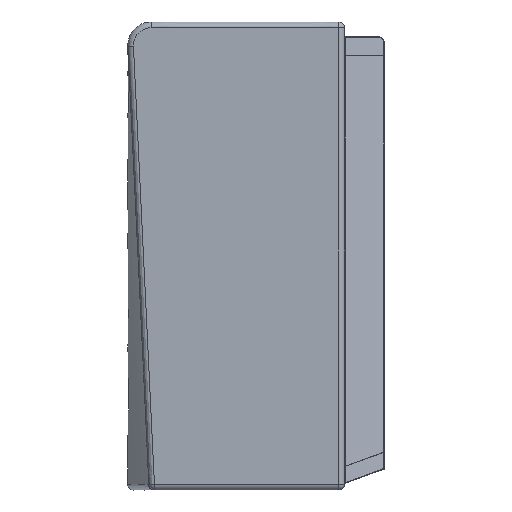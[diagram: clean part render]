
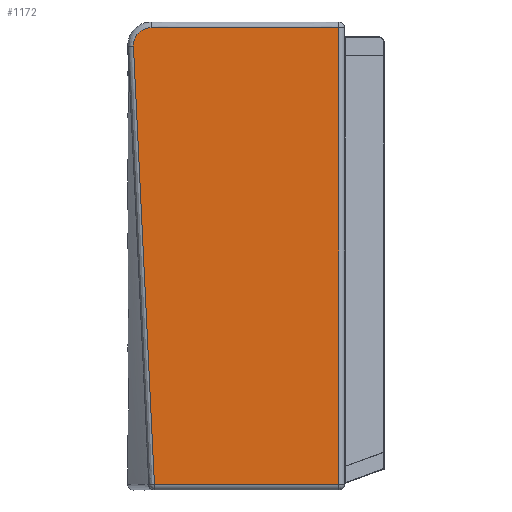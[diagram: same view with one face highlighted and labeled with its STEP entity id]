
A CAD part, left-side view. The second image highlights one B-rep face of the part: STEP entity #1172.
In plain terms, the highlighted planar face has unit normal (-1, 0, 0).
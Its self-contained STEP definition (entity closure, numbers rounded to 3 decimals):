
#132=FACE_OUTER_BOUND('',#215,.T.);
#215=EDGE_LOOP('',(#789,#790,#791,#792,#793));
#300=B_SPLINE_CURVE_WITH_KNOTS('',3,(#1871,#1872,#1873,#1874,#1875,#1876,
#1877,#1878,#1879,#1880,#1881,#1882,#1883,#1884,#1885,#1886,#1887,#1888,
#1889,#1890,#1891,#1892,#1893,#1894,#1895,#1896,#1897,#1898,#1899,#1900,
#1901,#1902,#1903,#1904,#1905,#1906,#1907,#1908,#1909,#1910,#1911,#1912,
#1913,#1914,#1915,#1916,#1917,#1918,#1919,#1920,#1921,#1922,#1923,#1924,
#1925,#1926,#1927,#1928,#1929,#1930,#1931,#1932,#1933,#1934,#1935,#1936,
#1937,#1938,#1939,#1940,#1941,#1942,#1943,#1944,#1945,#1946),
 .UNSPECIFIED.,.F.,.F.,(4,3,3,3,3,3,3,3,3,3,3,3,3,3,3,3,3,3,3,3,3,3,3,3,
3,4),(0.,0.004,0.006,0.009,0.011,
0.012,0.019,0.02,0.022,
0.025,0.031,0.033,0.034,
0.037,0.04,0.042,0.044,
0.047,0.048,0.049,0.049,
0.05,0.05,0.05,0.05,
0.05),.UNSPECIFIED.);
#301=B_SPLINE_CURVE_WITH_KNOTS('',3,(#1948,#1949,#1950,#1951,#1952,#1953,
#1954,#1955,#1956,#1957,#1958,#1959,#1960,#1961,#1962,#1963,#1964,#1965,
#1966),.UNSPECIFIED.,.F.,.F.,(4,3,3,3,3,3,4),(0.,0.193,0.387,
0.58,0.677,0.725,0.774),
 .UNSPECIFIED.);
#302=B_SPLINE_CURVE_WITH_KNOTS('',3,(#1971,#1972,#1973,#1974),
 .UNSPECIFIED.,.F.,.F.,(4,4),(0.,0.331),.UNSPECIFIED.);
#321=LINE('',#1968,#414);
#322=LINE('',#1970,#415);
#414=VECTOR('',#1419,1000.);
#415=VECTOR('',#1420,1000.);
#510=VERTEX_POINT('',#1869);
#511=VERTEX_POINT('',#1870);
#512=VERTEX_POINT('',#1947);
#513=VERTEX_POINT('',#1967);
#514=VERTEX_POINT('',#1969);
#616=EDGE_CURVE('',#510,#511,#300,.T.);
#617=EDGE_CURVE('',#511,#512,#301,.T.);
#618=EDGE_CURVE('',#512,#513,#321,.T.);
#619=EDGE_CURVE('',#513,#514,#322,.T.);
#620=EDGE_CURVE('',#514,#510,#302,.T.);
#789=ORIENTED_EDGE('',*,*,#616,.T.);
#790=ORIENTED_EDGE('',*,*,#617,.T.);
#791=ORIENTED_EDGE('',*,*,#618,.T.);
#792=ORIENTED_EDGE('',*,*,#619,.T.);
#793=ORIENTED_EDGE('',*,*,#620,.T.);
#1131=PLANE('',#1285);
#1172=ADVANCED_FACE('',(#132),#1131,.T.);
#1285=AXIS2_PLACEMENT_3D('',#1868,#1417,#1418);
#1417=DIRECTION('center_axis',(-1.,0.,0.));
#1418=DIRECTION('ref_axis',(0.,0.,1.));
#1419=DIRECTION('',(0.,-1.,0.));
#1420=DIRECTION('',(0.,0.,1.));
#1868=CARTESIAN_POINT('Origin',(-6.,341.201,-9.6));
#1869=CARTESIAN_POINT('',(-6.,341.201,21.234));
#1870=CARTESIAN_POINT('',(-6.,372.162,-11.099));
#1871=CARTESIAN_POINT('Ctrl Pts',(-6.,341.201,21.234));
#1872=CARTESIAN_POINT('Ctrl Pts',(-6.,342.412,21.234));
#1873=CARTESIAN_POINT('Ctrl Pts',(-6.,343.611,21.164));
#1874=CARTESIAN_POINT('Ctrl Pts',(-6.,344.799,21.026));
#1875=CARTESIAN_POINT('Ctrl Pts',(-6.,345.676,20.925));
#1876=CARTESIAN_POINT('Ctrl Pts',(-6.,346.546,20.786));
#1877=CARTESIAN_POINT('Ctrl Pts',(-6.,347.411,20.61));
#1878=CARTESIAN_POINT('Ctrl Pts',(-6.,348.428,20.404));
#1879=CARTESIAN_POINT('Ctrl Pts',(-6.,349.437,20.146));
#1880=CARTESIAN_POINT('Ctrl Pts',(-6.,350.437,19.836));
#1881=CARTESIAN_POINT('Ctrl Pts',(-6.,350.937,19.681));
#1882=CARTESIAN_POINT('Ctrl Pts',(-6.,351.436,19.513));
#1883=CARTESIAN_POINT('Ctrl Pts',(-6.,351.929,19.332));
#1884=CARTESIAN_POINT('Ctrl Pts',(-6.,352.422,19.152));
#1885=CARTESIAN_POINT('Ctrl Pts',(-6.,352.909,18.96));
#1886=CARTESIAN_POINT('Ctrl Pts',(-6.,353.389,18.756));
#1887=CARTESIAN_POINT('Ctrl Pts',(-6.,355.31,17.94));
#1888=CARTESIAN_POINT('Ctrl Pts',(-6.,357.129,16.942));
#1889=CARTESIAN_POINT('Ctrl Pts',(-6.,358.847,15.762));
#1890=CARTESIAN_POINT('Ctrl Pts',(-6.,359.277,15.466));
#1891=CARTESIAN_POINT('Ctrl Pts',(-6.,359.7,15.16));
#1892=CARTESIAN_POINT('Ctrl Pts',(-6.,360.117,14.841));
#1893=CARTESIAN_POINT('Ctrl Pts',(-6.,360.533,14.522));
#1894=CARTESIAN_POINT('Ctrl Pts',(-6.,360.944,14.191));
#1895=CARTESIAN_POINT('Ctrl Pts',(-6.,361.343,13.852));
#1896=CARTESIAN_POINT('Ctrl Pts',(-6.,362.142,13.174));
#1897=CARTESIAN_POINT('Ctrl Pts',(-6.,362.902,12.461));
#1898=CARTESIAN_POINT('Ctrl Pts',(-6.,363.621,11.712));
#1899=CARTESIAN_POINT('Ctrl Pts',(-6.,365.061,10.215));
#1900=CARTESIAN_POINT('Ctrl Pts',(-6.,366.345,8.58));
#1901=CARTESIAN_POINT('Ctrl Pts',(-6.,367.468,6.802));
#1902=CARTESIAN_POINT('Ctrl Pts',(-6.,367.749,6.358));
#1903=CARTESIAN_POINT('Ctrl Pts',(-6.,368.018,5.906));
#1904=CARTESIAN_POINT('Ctrl Pts',(-6.,368.274,5.45));
#1905=CARTESIAN_POINT('Ctrl Pts',(-6.,368.53,4.994));
#1906=CARTESIAN_POINT('Ctrl Pts',(-6.,368.774,4.533));
#1907=CARTESIAN_POINT('Ctrl Pts',(-6.,369.005,4.067));
#1908=CARTESIAN_POINT('Ctrl Pts',(-6.,369.468,3.135));
#1909=CARTESIAN_POINT('Ctrl Pts',(-6.,369.882,2.183));
#1910=CARTESIAN_POINT('Ctrl Pts',(-6.,370.247,1.211));
#1911=CARTESIAN_POINT('Ctrl Pts',(-6.,370.611,0.239));
#1912=CARTESIAN_POINT('Ctrl Pts',(-6.,370.928,-0.752));
#1913=CARTESIAN_POINT('Ctrl Pts',(-6.,371.194,-1.764));
#1914=CARTESIAN_POINT('Ctrl Pts',(-6.,371.327,-2.27));
#1915=CARTESIAN_POINT('Ctrl Pts',(-6.,371.448,-2.782));
#1916=CARTESIAN_POINT('Ctrl Pts',(-6.,371.555,-3.297));
#1917=CARTESIAN_POINT('Ctrl Pts',(-6.,371.663,-3.812));
#1918=CARTESIAN_POINT('Ctrl Pts',(-6.,371.757,-4.327));
#1919=CARTESIAN_POINT('Ctrl Pts',(-6.,371.837,-4.844));
#1920=CARTESIAN_POINT('Ctrl Pts',(-6.,371.998,-5.878));
#1921=CARTESIAN_POINT('Ctrl Pts',(-6.,372.105,-6.916));
#1922=CARTESIAN_POINT('Ctrl Pts',(-6.,372.159,-7.959));
#1923=CARTESIAN_POINT('Ctrl Pts',(-6.,372.187,-8.48));
#1924=CARTESIAN_POINT('Ctrl Pts',(-6.,372.2,-9.002));
#1925=CARTESIAN_POINT('Ctrl Pts',(-6.,372.201,-9.526));
#1926=CARTESIAN_POINT('Ctrl Pts',(-6.,372.201,-9.787));
#1927=CARTESIAN_POINT('Ctrl Pts',(-6.,372.198,-10.049));
#1928=CARTESIAN_POINT('Ctrl Pts',(-6.,372.191,-10.312));
#1929=CARTESIAN_POINT('Ctrl Pts',(-6.,372.188,-10.443));
#1930=CARTESIAN_POINT('Ctrl Pts',(-6.,372.184,-10.574));
#1931=CARTESIAN_POINT('Ctrl Pts',(-6.,372.179,-10.705));
#1932=CARTESIAN_POINT('Ctrl Pts',(-6.,372.177,-10.771));
#1933=CARTESIAN_POINT('Ctrl Pts',(-6.,372.174,-10.837));
#1934=CARTESIAN_POINT('Ctrl Pts',(-6.,372.171,-10.902));
#1935=CARTESIAN_POINT('Ctrl Pts',(-6.,372.17,-10.935));
#1936=CARTESIAN_POINT('Ctrl Pts',(-6.,372.168,-10.968));
#1937=CARTESIAN_POINT('Ctrl Pts',(-6.,372.167,-11.001));
#1938=CARTESIAN_POINT('Ctrl Pts',(-6.,372.166,-11.009));
#1939=CARTESIAN_POINT('Ctrl Pts',(-6.,372.166,-11.017));
#1940=CARTESIAN_POINT('Ctrl Pts',(-6.,372.165,-11.026));
#1941=CARTESIAN_POINT('Ctrl Pts',(-6.,372.165,-11.034));
#1942=CARTESIAN_POINT('Ctrl Pts',(-6.,372.165,-11.042));
#1943=CARTESIAN_POINT('Ctrl Pts',(-6.,372.164,-11.05));
#1944=CARTESIAN_POINT('Ctrl Pts',(-6.,372.163,-11.067));
#1945=CARTESIAN_POINT('Ctrl Pts',(-6.,372.163,-11.083));
#1946=CARTESIAN_POINT('Ctrl Pts',(-6.,372.162,-11.099));
#1947=CARTESIAN_POINT('',(-6.,335.186,-784.));
#1948=CARTESIAN_POINT('Ctrl Pts',(-6.,372.162,-11.099));
#1949=CARTESIAN_POINT('Ctrl Pts',(-6.,369.028,-75.505));
#1950=CARTESIAN_POINT('Ctrl Pts',(-6.,365.905,-139.912));
#1951=CARTESIAN_POINT('Ctrl Pts',(-6.,362.792,-204.319));
#1952=CARTESIAN_POINT('Ctrl Pts',(-6.,359.678,-268.725));
#1953=CARTESIAN_POINT('Ctrl Pts',(-6.,356.573,-333.133));
#1954=CARTESIAN_POINT('Ctrl Pts',(-6.,353.481,-397.541));
#1955=CARTESIAN_POINT('Ctrl Pts',(-6.,350.39,-461.948));
#1956=CARTESIAN_POINT('Ctrl Pts',(-6.,347.31,-526.357));
#1957=CARTESIAN_POINT('Ctrl Pts',(-6.,344.253,-590.766));
#1958=CARTESIAN_POINT('Ctrl Pts',(-6.,342.725,-622.971));
#1959=CARTESIAN_POINT('Ctrl Pts',(-6.,341.202,-655.176));
#1960=CARTESIAN_POINT('Ctrl Pts',(-6.,339.689,-687.382));
#1961=CARTESIAN_POINT('Ctrl Pts',(-6.,338.933,-703.485));
#1962=CARTESIAN_POINT('Ctrl Pts',(-6.,338.179,-719.587));
#1963=CARTESIAN_POINT('Ctrl Pts',(-6.,337.428,-735.69));
#1964=CARTESIAN_POINT('Ctrl Pts',(-6.,336.677,-751.793));
#1965=CARTESIAN_POINT('Ctrl Pts',(-6.,335.928,-767.897));
#1966=CARTESIAN_POINT('Ctrl Pts',(-6.,335.186,-784.));
#1967=CARTESIAN_POINT('',(-6.,10.,-784.));
#1968=CARTESIAN_POINT('',(-6.,341.201,-784.));
#1969=CARTESIAN_POINT('',(-6.,10.,21.203));
#1970=CARTESIAN_POINT('',(-6.,10.,-9.6));
#1971=CARTESIAN_POINT('Ctrl Pts',(-6.,10.,21.203));
#1972=CARTESIAN_POINT('Ctrl Pts',(-6.,120.4,21.205));
#1973=CARTESIAN_POINT('Ctrl Pts',(-6.,230.801,21.234));
#1974=CARTESIAN_POINT('Ctrl Pts',(-6.,341.201,21.234));
